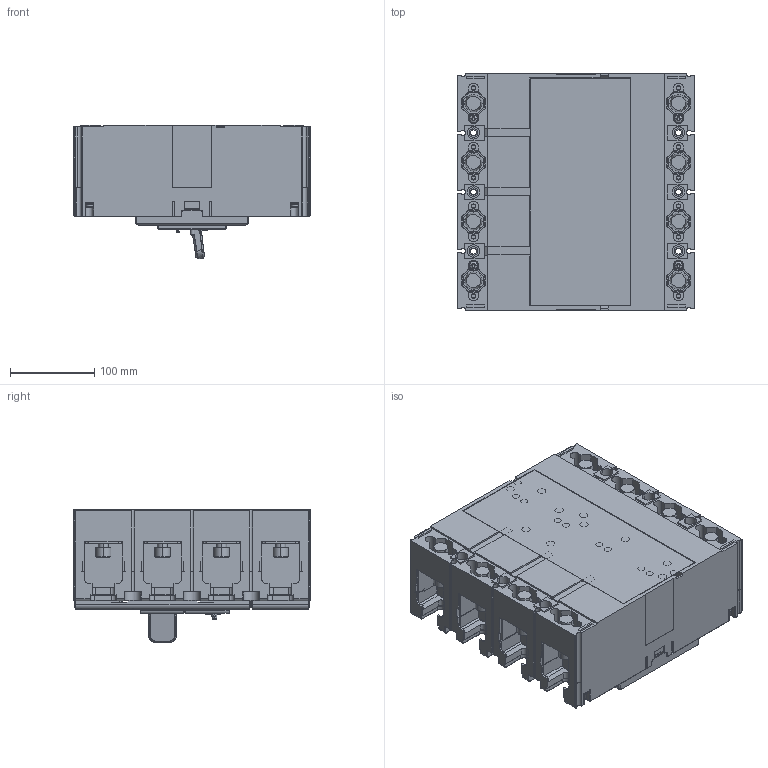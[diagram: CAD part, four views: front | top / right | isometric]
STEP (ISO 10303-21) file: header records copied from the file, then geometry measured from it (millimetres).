
FILE_DESCRIPTION((''),'2;1');
FILE_NAME('8009-4','2025-04-15T',('yan01.huang'),(''),'PRO/ENGINEER BY PARAMETRIC TECHNOLOGY CORPORATION, 2017170','PRO/ENGINEER BY PARAMETRIC TECHNOLOGY CORPORATION, 2017170','');
FILE_SCHEMA(('CONFIG_CONTROL_DESIGN'));
Products named in the file (1): 8009-4
Bounding box: 280 x 280 x 158.34 mm (x, y, z)
Volume: 6885978 mm3; surface area: 856712 mm2
Topology: 14 solids, 34 shells, 7014 faces, 18754 edges, 12018 vertices
Faces by surface type: plane 4528, cylinder 1482, extrusion 351, torus 234, cone 219, bspline 132, sphere 68
Entity records: 238646 total; most frequent: CARTESIAN_POINT 63376, ORIENTED_EDGE 37476, DIRECTION 34740, EDGE_CURVE 18738, VECTOR 14022, LINE 13671, VERTEX_POINT 12018, AXIS2_PLACEMENT_3D 10359
